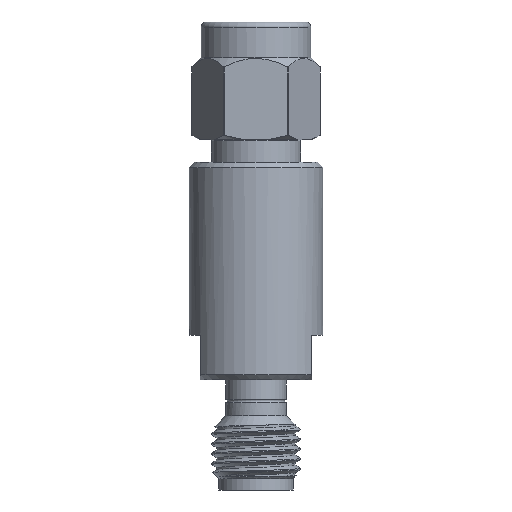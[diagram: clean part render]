
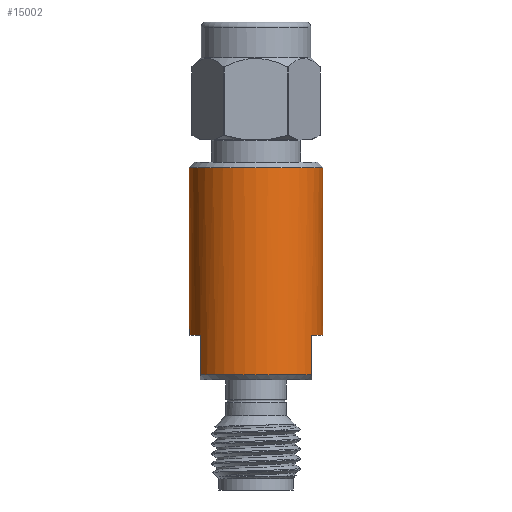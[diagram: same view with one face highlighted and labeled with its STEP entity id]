
A CAD part, left-side view. The second image highlights one B-rep face of the part: STEP entity #15002.
In plain terms, the highlighted cylindrical face has radius 4.763 mm (diameter 9.525 mm), a full revolution.
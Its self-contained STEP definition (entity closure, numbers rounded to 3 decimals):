
#389 = VERTEX_POINT ( 'NONE', #4190 ) ;
#707 = EDGE_LOOP ( 'NONE', ( #11590 ) ) ;
#757 = VERTEX_POINT ( 'NONE', #15443 ) ;
#850 = AXIS2_PLACEMENT_3D ( 'NONE', #20743, #909, #5036 ) ;
#909 = DIRECTION ( 'NONE',  ( 0., 0., 1. ) ) ;
#1448 = CARTESIAN_POINT ( 'NONE',  ( 0., 0., -7.366 ) ) ;
#1596 = CARTESIAN_POINT ( 'NONE',  ( 2.642, 3.962, -19.329 ) ) ;
#1800 = DIRECTION ( 'NONE',  ( 0., 0., 1. ) ) ;
#1805 = DIRECTION ( 'NONE',  ( 0., 0., -1. ) ) ;
#1844 = ORIENTED_EDGE ( 'NONE', *, *, #6087, .T. ) ;
#2013 = AXIS2_PLACEMENT_3D ( 'NONE', #13496, #22370, #15528 ) ;
#2245 = EDGE_CURVE ( 'NONE', #389, #389, #9697, .T. ) ;
#2269 = CIRCLE ( 'NONE', #13203, 4.762 ) ;
#2417 = DIRECTION ( 'NONE',  ( 0., 0., -1. ) ) ;
#2592 = CARTESIAN_POINT ( 'NONE',  ( 0., 0., -19.329 ) ) ;
#2820 = CARTESIAN_POINT ( 'NONE',  ( -2.642, 3.962, -19.329 ) ) ;
#2826 = DIRECTION ( 'NONE',  ( -1., 0., 0. ) ) ;
#2975 = EDGE_LOOP ( 'NONE', ( #21103, #8673, #10909, #13969, #8073, #16159, #1844, #18837 ) ) ;
#3034 = CIRCLE ( 'NONE', #20355, 4.762 ) ;
#3208 = CARTESIAN_POINT ( 'NONE',  ( 0., 0., -22.504 ) ) ;
#3385 = VERTEX_POINT ( 'NONE', #10108 ) ;
#4070 = EDGE_CURVE ( 'NONE', #14433, #5395, #7586, .T. ) ;
#4091 = CARTESIAN_POINT ( 'NONE',  ( -2.642, 3.962, -22.123 ) ) ;
#4190 = CARTESIAN_POINT ( 'NONE',  ( -4.762, 0., -7.366 ) ) ;
#4486 = FACE_OUTER_BOUND ( 'NONE', #2975, .T. ) ;
#4726 = EDGE_CURVE ( 'NONE', #3385, #5395, #3034, .T. ) ;
#4796 = AXIS2_PLACEMENT_3D ( 'NONE', #1448, #1805, #10890 ) ;
#5036 = DIRECTION ( 'NONE',  ( -1., 0., 0. ) ) ;
#5395 = VERTEX_POINT ( 'NONE', #6493 ) ;
#6087 = EDGE_CURVE ( 'NONE', #15665, #14433, #2269, .T. ) ;
#6309 = CARTESIAN_POINT ( 'NONE',  ( -2.642, -3.962, -19.329 ) ) ;
#6493 = CARTESIAN_POINT ( 'NONE',  ( 2.642, -3.962, -22.123 ) ) ;
#6504 = VECTOR ( 'NONE', #2417, 1000. ) ;
#6768 = LINE ( 'NONE', #17764, #22759 ) ;
#7586 = LINE ( 'NONE', #16945, #20334 ) ;
#7937 = DIRECTION ( 'NONE',  ( 0., 0., -1. ) ) ;
#8004 = DIRECTION ( 'NONE',  ( 0., 0., -1. ) ) ;
#8073 = ORIENTED_EDGE ( 'NONE', *, *, #12242, .F. ) ;
#8673 = ORIENTED_EDGE ( 'NONE', *, *, #20030, .T. ) ;
#9697 = CIRCLE ( 'NONE', #4796, 4.762 ) ;
#10108 = CARTESIAN_POINT ( 'NONE',  ( 2.642, 3.962, -22.123 ) ) ;
#10744 = AXIS2_PLACEMENT_3D ( 'NONE', #3208, #12046, #19368 ) ;
#10890 = DIRECTION ( 'NONE',  ( -1., 0., 0. ) ) ;
#10909 = ORIENTED_EDGE ( 'NONE', *, *, #20917, .T. ) ;
#11036 = CIRCLE ( 'NONE', #850, 4.762 ) ;
#11590 = ORIENTED_EDGE ( 'NONE', *, *, #2245, .T. ) ;
#11698 = FACE_OUTER_BOUND ( 'NONE', #707, .T. ) ;
#11895 = CARTESIAN_POINT ( 'NONE',  ( 0., 0., -22.123 ) ) ;
#12044 = VERTEX_POINT ( 'NONE', #1596 ) ;
#12046 = DIRECTION ( 'NONE',  ( 0., 0., -1. ) ) ;
#12193 = CIRCLE ( 'NONE', #2013, 4.762 ) ;
#12242 = EDGE_CURVE ( 'NONE', #757, #22848, #12193, .T. ) ;
#12288 = EDGE_CURVE ( 'NONE', #757, #15665, #6768, .T. ) ;
#13203 = AXIS2_PLACEMENT_3D ( 'NONE', #2592, #13328, #2826 ) ;
#13328 = DIRECTION ( 'NONE',  ( 0., 0., 1. ) ) ;
#13496 = CARTESIAN_POINT ( 'NONE',  ( 0., 0., -22.123 ) ) ;
#13619 = LINE ( 'NONE', #17297, #6504 ) ;
#13969 = ORIENTED_EDGE ( 'NONE', *, *, #19359, .T. ) ;
#14433 = VERTEX_POINT ( 'NONE', #21079 ) ;
#15002 = ADVANCED_FACE ( 'NONE', ( #4486, #11698 ), #18889, .T. ) ;
#15384 = VERTEX_POINT ( 'NONE', #2820 ) ;
#15443 = CARTESIAN_POINT ( 'NONE',  ( -2.642, -3.962, -22.123 ) ) ;
#15528 = DIRECTION ( 'NONE',  ( -1., 0., 0. ) ) ;
#15665 = VERTEX_POINT ( 'NONE', #6309 ) ;
#15914 = CARTESIAN_POINT ( 'NONE',  ( 2.642, 3.962, -22.504 ) ) ;
#16159 = ORIENTED_EDGE ( 'NONE', *, *, #12288, .T. ) ;
#16945 = CARTESIAN_POINT ( 'NONE',  ( 2.642, -3.962, -22.504 ) ) ;
#17297 = CARTESIAN_POINT ( 'NONE',  ( -2.642, 3.962, -22.504 ) ) ;
#17764 = CARTESIAN_POINT ( 'NONE',  ( -2.642, -3.962, -22.504 ) ) ;
#17803 = LINE ( 'NONE', #15914, #20441 ) ;
#18837 = ORIENTED_EDGE ( 'NONE', *, *, #4070, .T. ) ;
#18889 = CYLINDRICAL_SURFACE ( 'NONE', #10744, 4.762 ) ;
#19097 = DIRECTION ( 'NONE',  ( -1., 0., 0. ) ) ;
#19359 = EDGE_CURVE ( 'NONE', #15384, #22848, #13619, .T. ) ;
#19368 = DIRECTION ( 'NONE',  ( -1., 0., 0. ) ) ;
#20030 = EDGE_CURVE ( 'NONE', #3385, #12044, #17803, .T. ) ;
#20334 = VECTOR ( 'NONE', #7937, 1000. ) ;
#20355 = AXIS2_PLACEMENT_3D ( 'NONE', #11895, #8004, #19097 ) ;
#20441 = VECTOR ( 'NONE', #21334, 1000. ) ;
#20743 = CARTESIAN_POINT ( 'NONE',  ( 0., 0., -19.329 ) ) ;
#20917 = EDGE_CURVE ( 'NONE', #12044, #15384, #11036, .T. ) ;
#21079 = CARTESIAN_POINT ( 'NONE',  ( 2.642, -3.962, -19.329 ) ) ;
#21103 = ORIENTED_EDGE ( 'NONE', *, *, #4726, .F. ) ;
#21334 = DIRECTION ( 'NONE',  ( 0., 0., 1. ) ) ;
#22370 = DIRECTION ( 'NONE',  ( 0., 0., -1. ) ) ;
#22759 = VECTOR ( 'NONE', #1800, 1000. ) ;
#22848 = VERTEX_POINT ( 'NONE', #4091 ) ;
